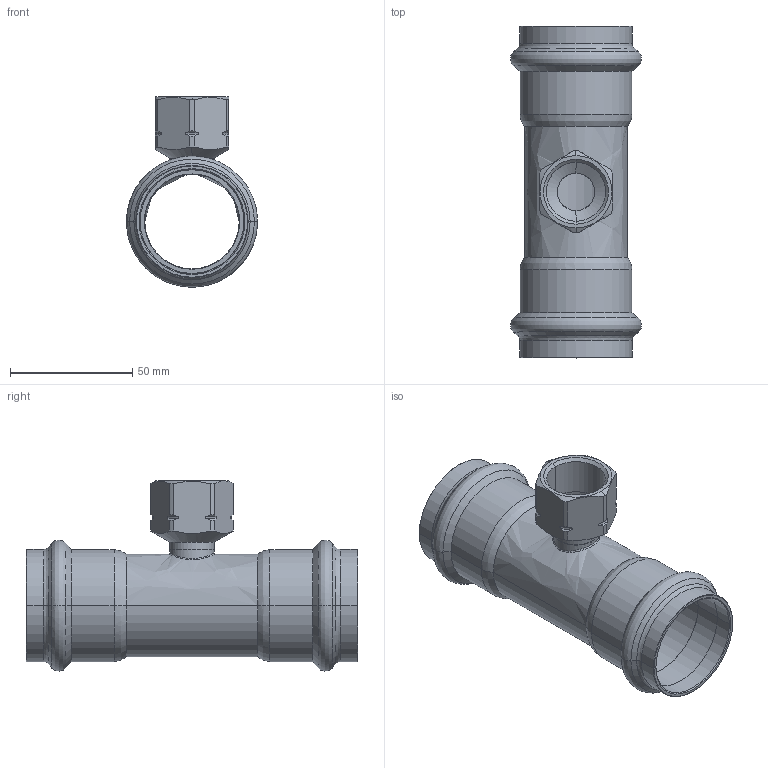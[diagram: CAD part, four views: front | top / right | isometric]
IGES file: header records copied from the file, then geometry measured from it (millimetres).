
Start section: Elysium IGES Interface
Global section: file name: C:\3d modellen sudo\C-Pr VP\SP8130GV\8130GVW423442.igs; native system: CoCreate Modeling 17.00A  17-Jun-2010; preprocessor: CoCreate IGES_3D V2.2; author: Unknown; organization: Unknown; date: 20130305.090540; units: millimetre
Bounding box: 53.61 x 135.73 x 77.79 mm (x, y, z)
Volume: 47554.5 mm3; surface area: 44122.2 mm2
Topology: 1 solids, 1 shells, 134 faces, 317 edges, 186 vertices
Faces by surface type: bspline 134
